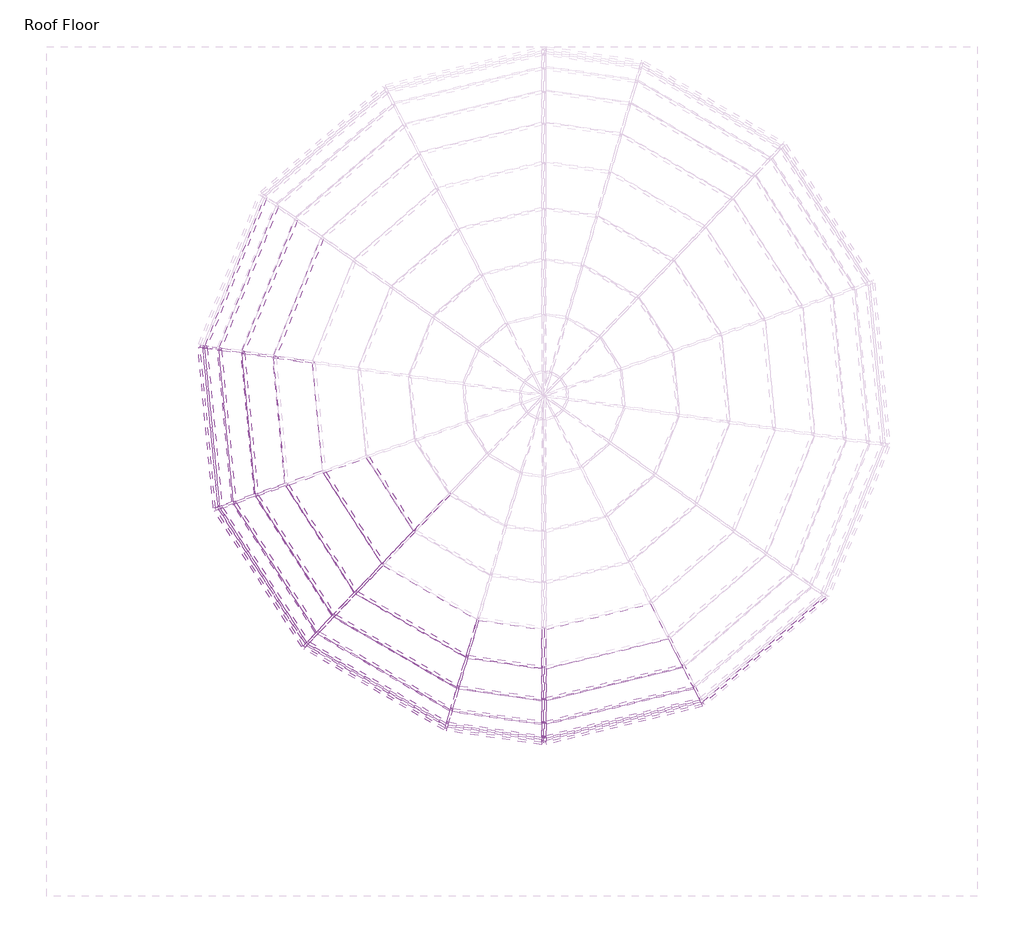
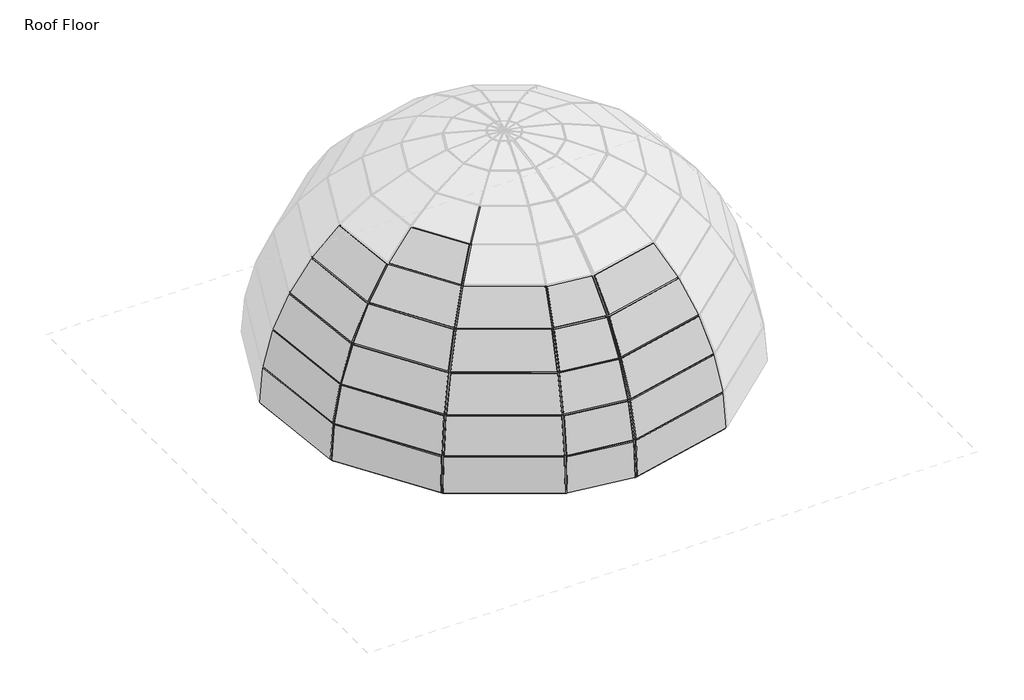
# One storey, part 1 of 5: 64 members, 26 plates.
"""IFC4 building model written with IfcOpenShell, lengths in millimetres."""

from ifc_helpers import new_model, si_unit, origin, place, context, project, spatial, transform, mapped, element, save
from components import member_4cbb40d8, member_e5884c93, member_19e455aa, member_1644e863, member_7f7bd10d, member_ecfbb555, member_824fc51d, member_1f5db4fb, member_3542fcca, member_54749c12, member_8c0c7285, member_e03b8e9c, member_dc775c2f, member_acb6b9ec, member_e077157f, member_24c90e2e, member_8ccf5568, member_6952dcc5, member_c3dcfc8e, member_3c5b05b3, member_fd7ad58a, member_76afc974, member_c7f1f8f4, member_16816f3b, member_95e271e4, member_56577a18, member_51c93bb0, system_panel_glazed_95229d4f, system_panel_glazed_dfb81899, system_panel_glazed_b60c8f88, system_panel_glazed_a08cf5d3, system_panel_glazed_10998a2e, system_panel_glazed_e9365c18, system_panel_glazed_9944c64d, system_panel_glazed_044c179b, system_panel_glazed_231bbcbc, system_panel_glazed_73e16893, system_panel_glazed_0d06b648, system_panel_glazed_5fe24ba9, system_panel_glazed_dbff668c, system_panel_glazed_0487fba4, system_panel_glazed_b552b528, system_panel_glazed_bd6fc11e

model = new_model("IFC4")

# Units and contexts
model_context = context("Model", 3, world=origin())
ifc_project = project(units=[si_unit("LENGTHUNIT", "METRE", prefix="MILLI")], contexts=[model_context])

# Site, building, storey
site = spatial("IfcSite", under=ifc_project)
building = spatial("IfcBuilding", under=site)
storey = spatial("IfcBuildingStorey", under=building, Name="Roof Floor", Elevation=15240.0)

# Members
placement = place(None, origin())
member_shape = member_4cbb40d8(model_context)
element("IfcMember", 1, ObjectType="Rectangular Mullion : 1\" Square", at=placement, inside=storey, context=model_context, shape_type="MappedRepresentation", body=[
    mapped(member_shape, transform((-2496.2458139, -4273.2496471, 21117.9670279), x_axis=(0.08886370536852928, 0.6165291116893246, 0.7823011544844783), y_axis=(-0.11160400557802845, -0.7742994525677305, 0.6229003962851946), z_axis=(0.9897715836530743, -0.14266117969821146, 0.0))),
])
member_2_shape = member_e5884c93(model_context)
element("IfcMember", 2, ObjectType="Rectangular Mullion : 1\" Square", at=placement, inside=storey, context=model_context, shape_type="MappedRepresentation", body=[
    mapped(member_2_shape, transform((-3496.18083, -4124.3511917, 21117.9670279), x_axis=(0.31528228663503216, 0.5452768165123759, 0.7767047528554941), y_axis=(-0.38878380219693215, -0.6723967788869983, 0.6298648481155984), z_axis=(0.8657044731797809, -0.5005554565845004, 0.0))),
])
element("IfcMember", 3, ObjectType="Rectangular Mullion : 1\" Square", at=placement, inside=storey, context=model_context, shape_type="MappedRepresentation", body=[
    mapped(member_2_shape, transform((-4957.4772001, -3272.7002476, 21117.9670279), x_axis=(0.5300546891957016, 0.3402524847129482, 0.7767047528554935), y_axis=(-0.6536259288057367, -0.41957528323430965, 0.6298648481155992), z_axis=(0.5401991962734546, -0.8415371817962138, 0.0))),
])
element("IfcMember", 4, ObjectType="Rectangular Mullion : 1\" Square", at=placement, inside=storey, context=model_context, shape_type="MappedRepresentation", body=[
    mapped(member_2_shape, transform((-6020.5401393, -161.9169828, 21117.9670279), x_axis=(0.5846780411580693, -0.2342676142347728, 0.7767047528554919), y_axis=(-0.7209835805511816, 0.28888224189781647, 0.6298648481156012), z_axis=(-0.3719331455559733, -0.9282595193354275, 0.0))),
])
member_3_shape = member_19e455aa(model_context)
element("IfcMember", 5, ObjectType="Rectangular Mullion : 1\" Square", at=placement, inside=storey, context=model_context, shape_type="MappedRepresentation", body=[
    mapped(member_3_shape, transform((-2496.2458139, -4693.39682, 20482.2624164), x_axis=(0.06901071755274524, 0.4787907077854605, 0.875212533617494), y_axis=(-0.12485885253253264, -0.8662604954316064, 0.4837385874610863), z_axis=(0.9897715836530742, -0.1426611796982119, 0.0))),
])
member_4_shape = member_1644e863(model_context)
element("IfcMember", 6, ObjectType="Rectangular Mullion : 1\" Square", at=placement, inside=storey, context=model_context, shape_type="MappedRepresentation", body=[
    mapped(member_4_shape, transform((-3614.8320569, -4527.3965158, 20482.2624164), x_axis=(0.24554093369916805, 0.424660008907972, 0.8714204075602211), y_axis=(-0.4361942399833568, -0.7543925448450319, 0.4905369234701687), z_axis=(0.8657044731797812, -0.5005554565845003, 0.0))),
])
element("IfcMember", 7, ObjectType="Rectangular Mullion : 1\" Square", at=placement, inside=storey, context=model_context, shape_type="MappedRepresentation", body=[
    mapped(member_4_shape, transform((-5247.5892288, -3576.60592, 20482.2624164), x_axis=(0.41280506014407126, 0.26498765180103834, 0.8714204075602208), y_axis=(-0.7333326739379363, -0.4707406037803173, 0.49053692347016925), z_axis=(0.5401991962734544, -0.841537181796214, 0.0))),
])
element("IfcMember", 8, ObjectType="Rectangular Mullion : 1\" Square", at=placement, inside=storey, context=model_context, shape_type="MappedRepresentation", body=[
    mapped(member_4_shape, transform((-6263.3500422, -1983.4553593, 20482.2624164), x_axis=(0.48833472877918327, 0.04642914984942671, 0.8714204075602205), y_axis=(-0.867508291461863, -0.0824796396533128, 0.49053692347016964), z_axis=(0.09464965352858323, -0.9955106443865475, 0.0))),
])
element("IfcMember", 9, ObjectType="Rectangular Mullion : 1\" Square", at=placement, inside=storey, context=model_context, shape_type="MappedRepresentation", body=[
    mapped(member_4_shape, transform((-6436.389872, -101.9782914, 20482.2624164), x_axis=(0.4553455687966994, -0.1824469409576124, 0.8714204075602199), y_axis=(-0.8089042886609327, 0.32411013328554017, 0.4905369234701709), z_axis=(-0.3719331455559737, -0.9282595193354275, 0.0))),
])
member_5_shape = member_7f7bd10d(model_context)
element("IfcMember", 10, ObjectType="Rectangular Mullion : 1\" Square", at=placement, inside=storey, context=model_context, shape_type="MappedRepresentation", body=[
    mapped(member_5_shape, transform((-6933.4908006, -42.7981489, 19047.3495572), x_axis=(-0.14266117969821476, -0.9897715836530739, 0.0), y_axis=(-0.9589308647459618, 0.1382159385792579, 0.24768518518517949), z_axis=(-0.24515175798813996, 0.03533506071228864, -0.9688405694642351))),
])
element("IfcMember", 11, ObjectType="Rectangular Mullion : 1\" Square", at=placement, inside=storey, context=model_context, shape_type="MappedRepresentation", body=[
    mapped(member_5_shape, transform((-6746.685161, -69.7234652, 19785.6060711), x_axis=(-0.1426611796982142, -0.9897715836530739, 0.0), y_axis=(-0.904895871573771, 0.13042758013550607, 0.40515689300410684), z_axis=(-0.401012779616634, 0.0578001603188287, -0.9142471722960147))),
])
element("IfcMember", 12, ObjectType="Rectangular Mullion : 1\" Square", at=placement, inside=storey, context=model_context, shape_type="MappedRepresentation", body=[
    mapped(member_5_shape, transform((-6441.1134229, -113.7671873, 20482.2624164), x_axis=(-0.1426611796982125, -0.9897715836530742, 0.0), y_axis=(-0.8257248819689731, 0.11901623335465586, 0.5513742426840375), z_axis=(-0.5457345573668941, 0.07865969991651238, -0.834258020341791))),
])
element("IfcMember", 13, ObjectType="Rectangular Mullion : 1\" Square", at=placement, inside=storey, context=model_context, shape_type="MappedRepresentation", body=[
    mapped(member_5_shape, transform((-6025.2636902, -173.7058787, 21117.9670279), x_axis=(-0.1426611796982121, -0.9897715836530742, 0.0), y_axis=(-0.7236170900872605, 0.1042988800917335, 0.6822756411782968), z_axis=(-0.6752970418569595, 0.09733424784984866, -0.731095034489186))),
])
element("IfcMember", 14, ObjectType="Rectangular Mullion : 1\" Square", at=placement, inside=storey, context=model_context, shape_type="MappedRepresentation", body=[
    mapped(member_5_shape, transform((-405.6587587, -4693.5416331, 19047.3495572), x_axis=(0.8888888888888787, 0.4581228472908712, 0.0), y_axis=(0.44384800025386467, -0.8611916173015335, 0.2476851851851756), z_axis=(0.11347024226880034, -0.2201646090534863, -0.9688405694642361))),
])
element("IfcMember", 15, ObjectType="Rectangular Mullion : 1\" Square", at=placement, inside=storey, context=model_context, shape_type="MappedRepresentation", body=[
    mapped(member_5_shape, transform((-492.1230833, -4525.776201, 19785.6060711), x_axis=(0.8888888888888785, 0.45812284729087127, 0.0), y_axis=(0.4188375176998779, -0.8126641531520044, 0.4051568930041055), z_axis=(0.18561162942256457, -0.3601394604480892, -0.9142471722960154))),
])
element("IfcMember", 16, ObjectType="Rectangular Mullion : 1\" Square", at=placement, inside=storey, context=model_context, shape_type="MappedRepresentation", body=[
    mapped(member_5_shape, transform((-633.5591449, -4251.3499322, 20482.2624164), x_axis=(0.8888888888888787, 0.458122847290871, 0.0), y_axis=(0.38219265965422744, -0.7415626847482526, 0.5513742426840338), z_axis=(0.2525971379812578, -0.4901104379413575, -0.8342580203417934))),
])
member_6_shape = member_ecfbb555(model_context)
element("IfcMember", 17, ObjectType="Rectangular Mullion : 1\" Square", at=placement, inside=storey, context=model_context, shape_type="MappedRepresentation", body=[
    mapped(member_6_shape, transform((-6555.1468004, -2084.2947787, 19785.6060711), x_axis=(0.3344897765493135, 0.03180211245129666, 0.941862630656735), y_axis=(-0.9376342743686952, -0.08914697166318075, 0.3359981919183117), z_axis=(0.09464965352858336, -0.9955106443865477, 0.0))),
])
element("IfcMember", 18, ObjectType="Rectangular Mullion : 1\" Square", at=placement, inside=storey, context=model_context, shape_type="MappedRepresentation", body=[
    mapped(member_6_shape, transform((-6741.9616101, -57.9345693, 19785.6060711), x_axis=(0.311893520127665, -0.12496886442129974, 0.9418626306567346), y_axis=(-0.8742929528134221, 0.35030993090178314, 0.33599819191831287), z_axis=(-0.3719331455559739, -0.9282595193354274, 0.0))),
])
element("IfcMember", 19, ObjectType="Rectangular Mullion : 1\" Square", at=placement, inside=storey, context=model_context, shape_type="MappedRepresentation", body=[
    mapped(member_6_shape, transform((-3702.0185062, -4823.5594096, 19785.6060711), x_axis=(0.16818572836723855, 0.2908751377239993, 0.9418626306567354), y_axis=(-0.47145447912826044, -0.815374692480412, 0.33599819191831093), z_axis=(0.8657044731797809, -0.5005554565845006, 0.0))),
])
element("IfcMember", 20, ObjectType="Rectangular Mullion : 1\" Square", at=placement, inside=storey, context=model_context, shape_type="MappedRepresentation", body=[
    mapped(member_6_shape, transform((-5460.767283, -3799.9197212, 19785.6060711), x_axis=(0.2827549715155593, 0.18150595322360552, 0.9418626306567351), y_axis=(-0.7926124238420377, -0.5087934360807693, 0.33599819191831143), z_axis=(0.5401991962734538, -0.8415371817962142, 0.0))),
])
member_7_shape = member_824fc51d(model_context)
element("IfcMember", 21, ObjectType="Rectangular Mullion : 1\" Square", at=placement, inside=storey, context=model_context, shape_type="MappedRepresentation", body=[
    mapped(member_7_shape, transform((-504.4652648, -4528.7696197, 19785.6060711), x_axis=(-0.0791955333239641, 0.3265315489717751, 0.9418626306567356), y_axis=(0.22199915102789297, -0.9153259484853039, 0.3359981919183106), z_axis=(0.9718253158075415, 0.23570226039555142, 0.0))),
])
member_8_shape = member_1f5db4fb(model_context)
element("IfcMember", 22, ObjectType="Rectangular Mullion : 1\" Square", at=placement, inside=storey, context=model_context, shape_type="MappedRepresentation", body=[
    mapped(member_8_shape, transform((-2496.2458139, -5190.8624836, 19047.3495572), x_axis=(0.02393216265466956, 0.1660393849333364, 0.9858286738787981), y_axis=(-0.140639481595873, -0.9757452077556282, 0.16775525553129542), z_axis=(0.9897715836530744, -0.14266117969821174, 0.0))),
])
member_9_shape = member_3542fcca(model_context)
element("IfcMember", 23, ObjectType="Rectangular Mullion : 1\" Square", at=placement, inside=storey, context=model_context, shape_type="MappedRepresentation", body=[
    mapped(member_9_shape, transform((-3755.318332, -5004.6131259, 19047.3495572), x_axis=(0.08547664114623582, 0.1478307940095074, 0.9853120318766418), y_axis=(-0.4932033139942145, -0.8529890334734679, 0.1707635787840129), z_axis=(0.8657044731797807, -0.5005554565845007, 0.0))),
])
element("IfcMember", 24, ObjectType="Rectangular Mullion : 1\" Square", at=placement, inside=storey, context=model_context, shape_type="MappedRepresentation", body=[
    mapped(member_9_shape, transform((-5591.08975, -3936.43849, 19047.3495572), x_axis=(0.14370390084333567, 0.09224634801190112, 0.9853120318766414), y_axis=(-0.8291767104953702, -0.5322647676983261, 0.17076357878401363), z_axis=(0.540199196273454, -0.8415371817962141, 0.0))),
])
element("IfcMember", 25, ObjectType="Rectangular Mullion : 1\" Square", at=placement, inside=storey, context=model_context, shape_type="MappedRepresentation", body=[
    mapped(member_9_shape, transform((-6733.5313603, -2145.9410957, 19047.3495572), x_axis=(0.16999696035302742, 0.016162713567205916, 0.9853120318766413), y_axis=(-0.9808886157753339, -0.09325944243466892, 0.17076357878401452), z_axis=(0.09464965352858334, -0.9955106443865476, 0.0))),
])
element("IfcMember", 26, ObjectType="Rectangular Mullion : 1\" Square", at=placement, inside=storey, context=model_context, shape_type="MappedRepresentation", body=[
    mapped(member_9_shape, transform((-6928.7672496, -31.009253, 19047.3495572), x_axis=(0.1585129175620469, -0.06351263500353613, 0.9853120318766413), y_axis=(-0.9146252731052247, 0.3664702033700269, 0.17076357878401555), z_axis=(-0.37193314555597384, -0.9282595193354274, 0.0))),
])
member_10_shape = member_54749c12(model_context)
element("IfcMember", 27, ObjectType="Rectangular Mullion : 1\" Square", at=placement, inside=storey, context=model_context, shape_type="MappedRepresentation", body=[
    mapped(member_10_shape, transform((-645.9013264, -4254.3433509, 20482.2624164), x_axis=(-0.11562066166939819, 0.47671620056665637, 0.8714204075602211), y_axis=(0.20539575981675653, -0.8468684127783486, 0.49053692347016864), z_axis=(0.9718253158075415, 0.2357022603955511, 0.0))),
])
member_11_shape = member_8c0c7285(model_context)
element("IfcMember", 28, ObjectType="Rectangular Mullion : 1\" Square", at=placement, inside=storey, context=model_context, shape_type="MappedRepresentation", body=[
    mapped(member_11_shape, transform((-2496.2458139, -5002.1263725, 19785.6060711), x_axis=(0.04716053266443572, 0.3271959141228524, 0.9437789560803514), y_axis=(-0.1346406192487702, -0.9341255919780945, 0.33057719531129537), z_axis=(0.9897715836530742, -0.14266117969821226, 0.0))),
])
member_12_shape = member_e03b8e9c(model_context)
element("IfcMember", 29, ObjectType="Rectangular Mullion : 1\" Square", at=placement, inside=storey, context=model_context, shape_type="MappedRepresentation", body=[
    mapped(member_12_shape, transform((-2471.1056157, -5194.4860776, 19047.3495572), x_axis=(-0.9720128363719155, -0.23411060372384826, 0.01957731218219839), y_axis=(0.23492774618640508, -0.9686319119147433, 0.08100106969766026), z_axis=(0.0, 0.08333333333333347, 0.9965217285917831))),
])
member_13_shape = member_dc775c2f(model_context)
element("IfcMember", 30, ObjectType="Rectangular Mullion : 1\" Square", at=placement, inside=storey, context=model_context, shape_type="MappedRepresentation", body=[
    mapped(member_13_shape, transform((-2471.1056157, -5005.7499665, 19785.6060711), x_axis=(-0.9734856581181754, -0.2216203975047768, 0.05665750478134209), y_axis=(0.22874805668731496, -0.9431523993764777, 0.24111797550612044), z_axis=(0.0, 0.247685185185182, 0.9688405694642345))),
])
member_14_shape = member_acb6b9ec(model_context)
element("IfcMember", 31, ObjectType="Rectangular Mullion : 1\" Square", at=placement, inside=storey, context=model_context, shape_type="MappedRepresentation", body=[
    mapped(member_14_shape, transform((-2471.1056157, -4697.020414, 20482.2624164), x_axis=(-0.9762871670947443, -0.19791575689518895, 0.08770815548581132), y_axis=(0.21647948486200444, -0.8925677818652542, 0.3955494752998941), z_axis=(0.0, 0.4051568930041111, 0.9142471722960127))),
])
member_15_shape = member_e077157f(model_context)
element("IfcMember", 32, ObjectType="Rectangular Mullion : 1\" Square", at=placement, inside=storey, context=model_context, shape_type="MappedRepresentation", body=[
    mapped(member_15_shape, transform((-2471.1056157, -4276.8732411, 21117.9670279), x_axis=(-0.980137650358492, -0.16544871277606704, 0.10934765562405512), y_axis=(0.1983183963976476, -0.817687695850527, 0.54042265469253), z_axis=(0.0, 0.5513742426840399, 0.8342580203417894))),
])
member_16_shape = member_24c90e2e(model_context)
element("IfcMember", 33, ObjectType="Rectangular Mullion : 1\" Square", at=placement, inside=storey, context=model_context, shape_type="MappedRepresentation", body=[
    mapped(member_16_shape, transform((-418.0009402, -4696.5350518, 19047.3495572), x_axis=(-0.04024936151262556, 0.16595236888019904, 0.9853120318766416), y_axis=(0.23224027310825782, -0.9575511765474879, 0.17076357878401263), z_axis=(0.9718253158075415, 0.23570226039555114, 0.0))),
])
member_17_shape = member_8ccf5568(model_context)
element("IfcMember", 34, ObjectType="Rectangular Mullion : 1\" Square", at=placement, inside=storey, context=model_context, shape_type="MappedRepresentation", body=[
    mapped(member_17_shape, transform((-3762.2565369, -5071.8854493, 18288.0), x_axis=(0.9592955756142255, -0.2824039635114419, 0.0), y_axis=(-0.2814216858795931, -0.9559588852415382, 0.08333333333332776), z_axis=(-0.023533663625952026, -0.07994129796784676, -0.9965217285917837))),
])
element("IfcMember", 35, ObjectType="Rectangular Mullion : 1\" Square", at=placement, inside=storey, context=model_context, shape_type="MappedRepresentation", body=[
    mapped(member_17_shape, transform((-5628.0760315, -3993.0575606, 18288.0), x_axis=(0.7233314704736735, -0.690500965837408, 0.0), y_axis=(-0.6880992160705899, -0.720815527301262, 0.08333333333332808), z_axis=(-0.057541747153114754, -0.06027762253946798, -0.9965217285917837))),
])
element("IfcMember", 36, ObjectType="Rectangular Mullion : 1\" Square", at=placement, inside=storey, context=model_context, shape_type="MappedRepresentation", body=[
    mapped(member_17_shape, transform((-6792.3465449, -2179.3248979, 18288.0), x_axis=(0.3266270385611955, -0.9451533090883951, 0.0), y_axis=(-0.9418658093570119, -0.32549094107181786, 0.08333333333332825), z_axis=(-0.07876277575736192, -0.02721891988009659, -0.9965217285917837))),
])
member_18_shape = member_6952dcc5(model_context)
element("IfcMember", 37, ObjectType="Rectangular Mullion : 1\" Square", at=placement, inside=storey, context=model_context, shape_type="MappedRepresentation", body=[
    mapped(member_18_shape, transform((-6995.1392456, -46.3821492, 18288.0), x_axis=(-0.08063742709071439, -0.007666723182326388, -0.9967140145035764), y_axis=(-0.9922394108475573, -0.09433863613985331, 0.08100106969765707), z_axis=(-0.09464965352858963, 0.995510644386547, 0.0))),
])
element("IfcMember", 38, ObjectType="Rectangular Mullion : 1\" Square", at=placement, inside=storey, context=model_context, shape_type="MappedRepresentation", body=[
    mapped(member_18_shape, transform((-6785.4860151, -2190.0124201, 18288.0), x_axis=(-0.06816541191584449, -0.04375671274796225, -0.9967140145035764), y_axis=(-0.8387719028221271, -0.5384241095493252, 0.08100106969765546), z_axis=(-0.5401991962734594, 0.8415371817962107, 0.0))),
])
element("IfcMember", 39, ObjectType="Rectangular Mullion : 1\" Square", at=placement, inside=storey, context=model_context, shape_type="MappedRepresentation", body=[
    mapped(member_18_shape, transform((-5617.0815847, -3999.4146149, 18288.0), x_axis=(-0.04054552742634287, -0.07012298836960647, -0.9967140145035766), y_axis=(-0.4989106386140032, -0.8628597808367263, 0.08100106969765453), z_axis=(-0.8657044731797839, 0.5005554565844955, 0.0))),
])
element("IfcMember", 40, ObjectType="Rectangular Mullion : 1\" Square", at=placement, inside=storey, context=model_context, shape_type="MappedRepresentation", body=[
    mapped(member_18_shape, transform((-366.9684834, -4741.6710256, 18288.0), x_axis=(0.053033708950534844, -0.061225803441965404, -0.9967140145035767), y_axis=(0.6525770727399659, -0.7533803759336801, 0.08100106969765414), z_axis=(-0.7558641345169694, -0.6547285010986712, 0.0))),
])
member_19_shape = member_c3dcfc8e(model_context)
element("IfcMember", 41, ObjectType="Rectangular Mullion : 1\" Square", at=placement, inside=storey, context=model_context, shape_type="MappedRepresentation", body=[
    mapped(member_19_shape, transform((-3749.6864378, -5073.6972463, 18288.0), x_axis=(-0.01176766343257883, -0.0816430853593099, -0.9965921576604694), y_axis=(-0.14217501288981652, -0.9863985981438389, 0.08248679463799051), z_axis=(-0.9897715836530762, 0.14266117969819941, 0.0))),
])
member_20_shape = member_3c5b05b3(model_context)
element("IfcMember", 42, ObjectType="Rectangular Mullion : 1\" Square", at=placement, inside=storey, context=model_context, shape_type="MappedRepresentation", body=[
    mapped(member_20_shape, transform((-2471.1056157, -5194.4860776, 19047.3495572), x_axis=(0.9903900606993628, -0.13399288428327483, 0.034255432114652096), y_axis=(-0.13830230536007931, -0.9595300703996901, 0.2453049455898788), z_axis=(0.0, -0.247685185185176, -0.9688405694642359))),
])
member_21_shape = member_fd7ad58a(model_context)
element("IfcMember", 43, ObjectType="Rectangular Mullion : 1\" Square", at=placement, inside=storey, context=model_context, shape_type="MappedRepresentation", body=[
    mapped(member_21_shape, transform((-2471.1056157, -5005.7499665, 19785.6060711), x_axis=(0.9914290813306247, -0.1194427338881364, 0.052932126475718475), y_axis=(-0.13064599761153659, -0.9064112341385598, 0.4016843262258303), z_axis=(0.0, -0.4051568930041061, -0.914247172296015))),
])
member_22_shape = member_76afc974(model_context)
element("IfcMember", 44, ObjectType="Rectangular Mullion : 1\" Square", at=placement, inside=storey, context=model_context, shape_type="MappedRepresentation", body=[
    mapped(member_22_shape, transform((-2471.1056157, -4697.020414, 20482.2624164), x_axis=(0.9928478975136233, -0.09959885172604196, 0.06582644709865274), y_axis=(-0.11938614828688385, -0.828291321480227, 0.5474307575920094), z_axis=(0.0, -0.551374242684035, -0.8342580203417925))),
])
member_23_shape = member_c7f1f8f4(model_context)
element("IfcMember", 45, ObjectType="Rectangular Mullion : 1\" Square", at=placement, inside=storey, context=model_context, shape_type="MappedRepresentation", body=[
    mapped(member_23_shape, transform((-2471.1056157, -4276.8732411, 21117.9670279), x_axis=(0.9944936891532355, -0.07661618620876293, 0.07150008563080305), y_axis=(-0.10479648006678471, -0.7270693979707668, 0.678518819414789), z_axis=(0.0, -0.6822756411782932, -0.7310950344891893))),
])
member_24_shape = member_16816f3b(model_context)
element("IfcMember", 46, ObjectType="Rectangular Mullion : 1\" Square", at=placement, inside=storey, context=model_context, shape_type="MappedRepresentation", body=[
    mapped(member_24_shape, transform((-4180.5990919, -2458.884754, 22138.0708204), x_axis=(0.714452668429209, 0.4586211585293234, 0.5284165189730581), y_axis=(-0.4446821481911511, -0.28545017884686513, 0.8489852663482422), z_axis=(0.5401991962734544, -0.841537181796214, 0.0))),
])
member_25_shape = member_95e271e4(model_context)
element("IfcMember", 47, ObjectType="Rectangular Mullion : 1\" Square", at=placement, inside=storey, context=model_context, shape_type="MappedRepresentation", body=[
    mapped(member_25_shape, transform((-4598.4898643, -2896.6445282, 21675.0614442), x_axis=(0.6313968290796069, 0.40530598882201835, 0.6611089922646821), y_axis=(-0.5563477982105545, -0.35713054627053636, 0.7502898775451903), z_axis=(0.5401991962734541, -0.8415371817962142, 0.0))),
])
member_26_shape = member_56577a18(model_context)
element("IfcMember", 48, ObjectType="Rectangular Mullion : 1\" Square", at=placement, inside=storey, context=model_context, shape_type="MappedRepresentation", body=[
    mapped(member_26_shape, transform((-2446.4212527, -5251.9992402, 18288.0), x_axis=(0.01909213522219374, -0.078718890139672, -0.9967140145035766), y_axis=(0.23492774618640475, -0.9686319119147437, 0.08100106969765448), z_axis=(-0.9718253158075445, -0.2357022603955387, 0.0))),
])
member_27_shape = member_51c93bb0(model_context)
element("IfcMember", 49, ObjectType="Rectangular Mullion : 1\" Square", at=placement, inside=storey, context=model_context, shape_type="MappedRepresentation", body=[
    mapped(member_27_shape, transform((-2471.1056157, -5257.9860776, 18288.0), x_axis=(0.9898415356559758, -0.14168048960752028, 0.011847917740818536), y_axis=(-0.14217501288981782, -0.9863985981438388, 0.08248679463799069), z_axis=(0.0, -0.08333333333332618, -0.9965217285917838))),
])
element("IfcMember", 50, ObjectType="Rectangular Mullion : 1\" Square", at=placement, inside=storey, context=model_context, shape_type="MappedRepresentation", body=[
    mapped(member_17_shape, transform((-6996.3412962, -33.739164, 18288.0), x_axis=(-0.14266117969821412, -0.9897715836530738, 0.0), y_axis=(-0.9863288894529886, 0.1421649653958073, 0.08333333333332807), z_axis=(-0.08248096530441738, 0.011888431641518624, -0.9965217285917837))),
])
element("IfcMember", 51, ObjectType="Rectangular Mullion : 1\" Square", at=placement, inside=storey, context=model_context, shape_type="MappedRepresentation", body=[
    mapped(member_17_shape, transform((-376.5679579, -4749.9860776, 18288.0), x_axis=(0.8888888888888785, 0.4581228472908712, 0.0), y_axis=(0.45652937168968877, -0.8857970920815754, 0.08333333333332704), z_axis=(0.03817690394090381, -0.07407407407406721, -0.9965217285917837))),
])
element("IfcMember", 52, ObjectType="Rectangular Mullion : 1\" Square", at=placement, inside=storey, context=model_context, shape_type="MappedRepresentation", body=[
    mapped(member_5_shape, transform((-6732.3293097, -2158.5840809, 19047.3495572), x_axis=(0.3266270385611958, -0.945153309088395, 0.0), y_axis=(-0.9157028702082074, -0.3164495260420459, 0.247685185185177), z_axis=(-0.23410047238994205, -0.08090067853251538, -0.9688405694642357))),
])
element("IfcMember", 53, ObjectType="Rectangular Mullion : 1\" Square", at=placement, inside=storey, context=model_context, shape_type="MappedRepresentation", body=[
    mapped(member_5_shape, transform((-6553.9447498, -2096.9377639, 19785.6060711), x_axis=(0.3266270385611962, -0.9451533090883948, 0.0), y_axis=(-0.8641037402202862, -0.2986178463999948, 0.4051568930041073), z_axis=(-0.3829353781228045, -0.1323351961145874, -0.9142471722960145))),
])
element("IfcMember", 54, ObjectType="Rectangular Mullion : 1\" Square", at=placement, inside=storey, context=model_context, shape_type="MappedRepresentation", body=[
    mapped(member_5_shape, transform((-6262.1479916, -1996.0983444, 20482.2624164), x_axis=(0.32662703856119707, -0.9451533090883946, 0.0), y_axis=(-0.78850172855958, -0.2724912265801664, 0.5513742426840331), z_axis=(-0.5211331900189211, -0.18009373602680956, -0.834258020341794))),
])
element("IfcMember", 55, ObjectType="Rectangular Mullion : 1\" Square", at=placement, inside=storey, context=model_context, shape_type="MappedRepresentation", body=[
    mapped(member_5_shape, transform((-5584.2292202, -3947.1260122, 19047.3495572), x_axis=(0.7233314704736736, -0.6905009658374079, 0.0), y_axis=(-0.668985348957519, -0.7007928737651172, 0.24768518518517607), z_axis=(-0.17102685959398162, -0.1791584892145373, -0.968840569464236))),
])
element("IfcMember", 56, ObjectType="Rectangular Mullion : 1\" Square", at=placement, inside=storey, context=model_context, shape_type="MappedRepresentation", body=[
    mapped(member_5_shape, transform((-5453.9067532, -3810.6072434, 19785.6060711), x_axis=(0.7233314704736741, -0.6905009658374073, 0.0), y_axis=(-0.6312885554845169, -0.6613037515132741, 0.4051568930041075), z_axis=(-0.27976122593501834, -0.29306273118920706, -0.9142471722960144))),
])
element("IfcMember", 57, ObjectType="Rectangular Mullion : 1\" Square", at=placement, inside=storey, context=model_context, shape_type="MappedRepresentation", body=[
    mapped(member_5_shape, transform((-5240.728699, -3587.2934423, 20482.2624164), x_axis=(0.7233314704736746, -0.6905009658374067, 0.0), y_axis=(-0.5760559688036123, -0.6034450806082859, 0.5513742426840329), z_axis=(-0.3807244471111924, -0.3988263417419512, -0.834258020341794))),
])
element("IfcMember", 58, ObjectType="Rectangular Mullion : 1\" Square", at=placement, inside=storey, context=model_context, shape_type="MappedRepresentation", body=[
    mapped(member_5_shape, transform((-4950.6166703, -3283.3877699, 21117.9670279), x_axis=(0.7233314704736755, -0.6905009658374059, 0.0), y_axis=(-0.5048218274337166, -0.5288240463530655, 0.6822756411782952), z_axis=(-0.47111198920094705, -0.49351144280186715, -0.7310950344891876))),
])
element("IfcMember", 59, ObjectType="Rectangular Mullion : 1\" Square", at=placement, inside=storey, context=model_context, shape_type="MappedRepresentation", body=[
    mapped(member_5_shape, transform((-4591.6293345, -2907.3320504, 21675.0614442), x_axis=(0.7233314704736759, -0.6905009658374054, 0.0), y_axis=(-0.41956485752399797, -0.43951345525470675, 0.7942249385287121), z_axis=(-0.5484130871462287, -0.5744878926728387, -0.6076238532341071))),
])
element("IfcMember", 60, ObjectType="Rectangular Mullion : 1\" Square", at=placement, inside=storey, context=model_context, shape_type="MappedRepresentation", body=[
    mapped(member_5_shape, transform((-4173.7385621, -2469.5722762, 22138.0708204), x_axis=(0.7233314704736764, -0.6905009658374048, 0.0), y_axis=(-0.3226533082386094, -0.3379941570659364, 0.8841124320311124), z_axis=(-0.6104804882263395, -0.6395063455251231, -0.46727423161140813))),
])
element("IfcMember", 61, ObjectType="Rectangular Mullion : 1\" Square", at=placement, inside=storey, context=model_context, shape_type="MappedRepresentation", body=[
    mapped(member_5_shape, transform((-3744.3238852, -5010.9701802, 19047.3495572), x_axis=(0.9592955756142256, -0.28240396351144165, 0.0), y_axis=(-0.27360441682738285, -0.9294044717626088, 0.24768518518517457), z_axis=(-0.06994727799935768, -0.23760330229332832, -0.9688405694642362))),
])
element("IfcMember", 62, ObjectType="Rectangular Mullion : 1\" Square", at=placement, inside=storey, context=model_context, shape_type="MappedRepresentation", body=[
    mapped(member_5_shape, transform((-3691.0240594, -4829.9164639, 19785.6060711), x_axis=(0.9592955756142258, -0.282403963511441, 0.0), y_axis=(-0.258187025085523, -0.8770332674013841, 0.40515689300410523), z_axis=(-0.11441791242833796, -0.38866521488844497, -0.9142471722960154))),
])
element("IfcMember", 63, ObjectType="Rectangular Mullion : 1\" Square", at=placement, inside=storey, context=model_context, shape_type="MappedRepresentation", body=[
    mapped(member_5_shape, transform((-3603.8376101, -4533.7535701, 20482.2624164), x_axis=(0.959295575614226, -0.2824039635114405, 0.0), y_axis=(-0.23559777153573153, -0.800300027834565, 0.5513742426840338), z_axis=(-0.15571027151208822, -0.5289308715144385, -0.8342580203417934))),
])
element("IfcMember", 64, ObjectType="Rectangular Mullion : 1\" Square", at=placement, inside=storey, context=model_context, shape_type="MappedRepresentation", body=[
    mapped(member_5_shape, transform((-3485.1863832, -4130.708246, 21117.9670279), x_axis=(0.9592955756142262, -0.28240396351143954, 0.0), y_axis=(-0.20646413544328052, -0.7013362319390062, 0.6822756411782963), z_axis=(-0.19267734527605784, -0.6545040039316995, -0.7310950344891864))),
])

# Plates
system_panel_glazed_shape = system_panel_glazed_95229d4f(model_context)
element("IfcPlate", 65, ObjectType="System Panel : Glazed", at=placement, inside=storey, context=model_context, shape_type="MappedRepresentation", body=[
    mapped(system_panel_glazed_shape, transform((-1418.1494455, -5000.4896196, 18313.316536), x_axis=(0.9718253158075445, 0.23570226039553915, 0.0), y_axis=(-0.2349277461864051, 0.9686319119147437, -0.08100106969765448), z_axis=(-0.01909213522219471, 0.07871889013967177, 0.9967140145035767))),
])
system_panel_glazed_2_shape = system_panel_glazed_dfb81899(model_context)
element("IfcPlate", 66, ObjectType="System Panel : Glazed", at=placement, inside=storey, context=model_context, shape_type="MappedRepresentation", body=[
    mapped(system_panel_glazed_2_shape, transform((-6892.2957299, -1106.3372962, 18313.316536), x_axis=(0.09464965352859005, -0.9955106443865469, 0.0), y_axis=(0.9922394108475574, 0.09433863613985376, -0.08100106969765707), z_axis=(0.08063742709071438, 0.0076667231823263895, 0.9967140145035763))),
])
element("IfcPlate", 67, ObjectType="System Panel : Glazed", at=placement, inside=storey, context=model_context, shape_type="MappedRepresentation", body=[
    mapped(system_panel_glazed_2_shape, transform((-6208.4798867, -3085.0798087, 18313.316536), x_axis=(0.5401991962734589, -0.8415371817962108, 0.0), y_axis=(0.8387719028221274, 0.5384241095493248, -0.08100106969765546), z_axis=(0.06816541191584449, 0.04375671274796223, 0.9967140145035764))),
])
element("IfcPlate", 68, ObjectType="System Panel : Glazed", at=placement, inside=storey, context=model_context, shape_type="MappedRepresentation", body=[
    mapped(system_panel_glazed_2_shape, transform((-4694.1364278, -4530.690381, 18313.316536), x_axis=(0.8657044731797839, -0.5005554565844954, 0.0), y_axis=(0.49891063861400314, 0.8628597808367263, -0.08100106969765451), z_axis=(0.04054552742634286, 0.07012298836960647, 0.9967140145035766))),
])
system_panel_glazed_3_shape = system_panel_glazed_b60c8f88(model_context)
element("IfcPlate", 69, ObjectType="System Panel : Glazed", at=placement, inside=storey, context=model_context, shape_type="MappedRepresentation", body=[
    mapped(system_panel_glazed_3_shape, transform((-3122.6676714, -5161.9560665, 18313.3134408), x_axis=(0.9897715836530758, -0.14266117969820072, 0.0), y_axis=(0.14217501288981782, 0.9863985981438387, -0.0824867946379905), z_axis=(0.011767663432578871, 0.0816430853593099, 0.9965921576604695))),
])
system_panel_glazed_4_shape = system_panel_glazed_a08cf5d3(model_context)
element("IfcPlate", 70, ObjectType="System Panel : Glazed", at=placement, inside=storey, context=model_context, shape_type="MappedRepresentation", body=[
    mapped(system_panel_glazed_4_shape, transform((-1432.9223203, -4939.5386671, 19059.674854), x_axis=(0.9718253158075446, 0.23570226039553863, 0.0), y_axis=(-0.22874805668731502, 0.9431523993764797, -0.24111797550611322), z_axis=(-0.056832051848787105, 0.23432455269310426, 0.9704958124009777))),
])
system_panel_glazed_5_shape = system_panel_glazed_10998a2e(model_context)
element("IfcPlate", 71, ObjectType="System Panel : Glazed", at=placement, inside=storey, context=model_context, shape_type="MappedRepresentation", body=[
    mapped(system_panel_glazed_5_shape, transform((-6829.8616042, -1100.4012789, 19059.674854), x_axis=(0.0946496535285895, -0.995510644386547, 0.0), y_axis=(0.9661389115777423, 0.09185709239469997, -0.2411179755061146), z_axis=(0.24003551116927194, 0.02282173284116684, 0.9704958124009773))),
])
element("IfcPlate", 72, ObjectType="System Panel : Glazed", at=placement, inside=storey, context=model_context, shape_type="MappedRepresentation", body=[
    mapped(system_panel_glazed_5_shape, transform((-6155.7023112, -3051.2008495, 19059.674854), x_axis=(0.5401991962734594, -0.8415371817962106, 0.0), y_axis=(0.816708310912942, 0.5242610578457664, -0.24111797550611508), z_axis=(0.20290974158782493, 0.13025173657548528, 0.9704958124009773))),
])
element("IfcPlate", 73, ObjectType="System Panel : Glazed", at=placement, inside=storey, context=model_context, shape_type="MappedRepresentation", body=[
    mapped(system_panel_glazed_5_shape, transform((-4662.7437526, -4476.3971375, 19059.674854), x_axis=(0.8657044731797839, -0.5005554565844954, 0.0), y_axis=(0.48578697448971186, 0.8401625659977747, -0.2411179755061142), z_axis=(0.12069291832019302, 0.20873690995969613, 0.9704958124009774))),
])
system_panel_glazed_6_shape = system_panel_glazed_e9365c18(model_context)
element("IfcPlate", 74, ObjectType="System Panel : Glazed", at=placement, inside=storey, context=model_context, shape_type="MappedRepresentation", body=[
    mapped(system_panel_glazed_6_shape, transform((-3113.5592846, -5098.7381569, 19059.661521), x_axis=(0.9897715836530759, -0.14266117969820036, 0.0), y_axis=(0.13830230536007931, 0.9595300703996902, -0.2453049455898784), z_axis=(0.034995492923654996, 0.24279586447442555, 0.9694459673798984))),
])
system_panel_glazed_7_shape = system_panel_glazed_9944c64d(model_context)
element("IfcPlate", 75, ObjectType="System Panel : Glazed", at=placement, inside=storey, context=model_context, shape_type="MappedRepresentation", body=[
    mapped(system_panel_glazed_7_shape, transform((-1476.5989712, -4759.3775593, 19797.2703184), x_axis=(0.9718253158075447, 0.23570226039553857, 0.0), y_axis=(-0.21647948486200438, 0.8925677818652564, -0.3955494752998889), z_axis=(-0.09323190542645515, 0.3844049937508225, 0.9184446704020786))),
])
system_panel_glazed_8_shape = system_panel_glazed_044c179b(model_context)
element("IfcPlate", 76, ObjectType="System Panel : Glazed", at=placement, inside=storey, context=model_context, shape_type="MappedRepresentation", body=[
    mapped(system_panel_glazed_8_shape, transform((-6645.3140292, -1082.855144, 19797.2703184), x_axis=(0.09464965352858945, -0.995510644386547, 0.0), y_axis=(0.9143214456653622, 0.08693046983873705, -0.39554947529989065), z_axis=(0.39377371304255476, 0.03743862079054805, 0.9184446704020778))),
])
element("IfcPlate", 77, ObjectType="System Panel : Glazed", at=placement, inside=storey, context=model_context, shape_type="MappedRepresentation", body=[
    mapped(system_panel_glazed_8_shape, transform((-5999.6983077, -2951.0588247, 19797.2703184), x_axis=(0.5401991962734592, -0.8415371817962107, 0.0), y_axis=(0.7729053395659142, 0.49614307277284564, -0.3955494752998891), z_axis=(0.3328695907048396, 0.21367550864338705, 0.9184446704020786))),
])
element("IfcPlate", 78, ObjectType="System Panel : Glazed", at=placement, inside=storey, context=model_context, shape_type="MappedRepresentation", body=[
    mapped(system_panel_glazed_8_shape, transform((-4569.9508768, -4315.913006, 19797.2703184), x_axis=(0.8657044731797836, -0.5005554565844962, 0.0), y_axis=(0.45973249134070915, 0.7951016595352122, -0.39554947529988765), z_axis=(0.19799444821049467, 0.3424289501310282, 0.9184446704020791))),
])
system_panel_glazed_9_shape = system_panel_glazed_231bbcbc(model_context)
element("IfcPlate", 79, ObjectType="System Panel : Glazed", at=placement, inside=storey, context=model_context, shape_type="MappedRepresentation", body=[
    mapped(system_panel_glazed_9_shape, transform((-3086.6326417, -4911.8765878, 19797.2364542), x_axis=(0.9897715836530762, -0.14266117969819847, 0.0), y_axis=(0.13064599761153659, 0.9064112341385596, -0.4016843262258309), z_axis=(0.05730475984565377, 0.39757573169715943, 0.9157781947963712))),
])
system_panel_glazed_10_shape = system_panel_glazed_73e16893(model_context)
element("IfcPlate", 80, ObjectType="System Panel : Glazed", at=placement, inside=storey, context=model_context, shape_type="MappedRepresentation", body=[
    mapped(system_panel_glazed_10_shape, transform((-1547.7262175, -4466.0056674, 20492.9481164), x_axis=(0.9718253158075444, 0.23570226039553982, 0.0), y_axis=(-0.1983183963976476, 0.8176876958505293, -0.5404226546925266), z_axis=(-0.12737884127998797, 0.5251964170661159, 0.8413936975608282))),
])
system_panel_glazed_11_shape = system_panel_glazed_0d06b648(model_context)
element("IfcPlate", 81, ObjectType="System Panel : Glazed", at=placement, inside=storey, context=model_context, shape_type="MappedRepresentation", body=[
    mapped(system_panel_glazed_11_shape, transform((-6344.7981517, -1054.2831505, 20492.9481164), x_axis=(0.09464965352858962, -0.995510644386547, 0.0), y_axis=(0.8376163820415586, 0.07963762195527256, -0.5404226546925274), z_axis=(0.5379965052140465, 0.051150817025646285, 0.8413936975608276))),
])
element("IfcPlate", 82, ObjectType="System Panel : Glazed", at=placement, inside=storey, context=model_context, shape_type="MappedRepresentation", body=[
    mapped(system_panel_glazed_11_shape, transform((-5745.6625662, -2787.9883076, 20492.9481164), x_axis=(0.5401991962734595, -0.8415371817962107, 0.0), y_axis=(0.7080640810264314, 0.45452019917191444, -0.5404226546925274), z_axis=(0.4547857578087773, 0.29193588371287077, 0.8413936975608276))),
])
element("IfcPlate", 83, ObjectType="System Panel : Glazed", at=placement, inside=storey, context=model_context, shape_type="MappedRepresentation", body=[
    mapped(system_panel_glazed_11_shape, transform((-4418.8476584, -4054.5818581, 20492.9481164), x_axis=(0.8657044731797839, -0.5005554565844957, 0.0), y_axis=(0.42116420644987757, 0.7283982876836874, -0.540422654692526), z_axis=(0.2705115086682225, 0.4678463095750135, 0.8413936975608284))),
])
system_panel_glazed_12_shape = system_panel_glazed_5fe24ba9(model_context)
element("IfcPlate", 84, ObjectType="System Panel : Glazed", at=placement, inside=storey, context=model_context, shape_type="MappedRepresentation", body=[
    mapped(system_panel_glazed_12_shape, transform((-3042.7843636, -4607.5970191, 20492.8904239), x_axis=(0.9897715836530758, -0.14266117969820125, 0.0), y_axis=(0.11938614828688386, 0.8282913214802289, -0.5474307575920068), z_axis=(0.07809711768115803, 0.5418314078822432, 0.8368509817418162))),
])
system_panel_glazed_13_shape = system_panel_glazed_dbff668c(model_context)
element("IfcPlate", 85, ObjectType="System Panel : Glazed", at=placement, inside=storey, context=model_context, shape_type="MappedRepresentation", body=[
    mapped(system_panel_glazed_13_shape, transform((-1644.3303894, -4067.5716311, 21127.3743739), x_axis=(0.9718253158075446, 0.23570226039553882, 0.0), y_axis=(-0.1745931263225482, 0.7198659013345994, -0.6717963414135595), z_axis=(-0.15834391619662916, 0.6528686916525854, 0.7407359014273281))),
])
system_panel_glazed_14_shape = system_panel_glazed_0487fba4(model_context)
element("IfcPlate", 86, ObjectType="System Panel : Glazed", at=placement, inside=storey, context=model_context, shape_type="MappedRepresentation", body=[
    mapped(system_panel_glazed_14_shape, transform((-5936.6605843, -1015.4788649, 21127.3743739), x_axis=(0.09464965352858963, -0.9955106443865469, 0.0), y_axis=(0.7374104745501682, 0.07011039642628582, -0.6717963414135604), z_axis=(0.6687804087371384, 0.06358529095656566, 0.7407359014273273))),
])
element("IfcPlate", 87, ObjectType="System Panel : Glazed", at=placement, inside=storey, context=model_context, shape_type="MappedRepresentation", body=[
    mapped(system_panel_glazed_14_shape, transform((-5400.6507473, -2566.5184649, 21127.3743739), x_axis=(0.5401991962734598, -0.8415371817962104, 0.0), y_axis=(0.6233568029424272, 0.4001449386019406, -0.6717963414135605), z_axis=(0.5653415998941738, 0.3629038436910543, 0.7407359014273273))),
])
element("IfcPlate", 88, ObjectType="System Panel : Glazed", at=placement, inside=storey, context=model_context, shape_type="MappedRepresentation", body=[
    mapped(system_panel_glazed_14_shape, transform((-4213.6308809, -3699.6619788, 21127.3743739), x_axis=(0.8657044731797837, -0.5005554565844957, 0.0), y_axis=(0.37077939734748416, 0.6412583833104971, -0.6717963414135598), z_axis=(0.33627132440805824, 0.581577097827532, 0.7407359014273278))),
])
system_panel_glazed_15_shape = system_panel_glazed_b552b528(model_context)
element("IfcPlate", 89, ObjectType="System Panel : Glazed", at=placement, inside=storey, context=model_context, shape_type="MappedRepresentation", body=[
    mapped(system_panel_glazed_15_shape, transform((-2983.231696, -4194.3514743, 21127.2962322), x_axis=(0.9897715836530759, -0.14266117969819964, 0.0), y_axis=(0.1047964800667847, 0.7270693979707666, -0.6785188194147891), z_axis=(0.09679829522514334, 0.6715786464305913, 0.7345830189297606))),
])
system_panel_glazed_16_shape = system_panel_glazed_bd6fc11e(model_context)
element("IfcPlate", 90, ObjectType="System Panel : Glazed", at=placement, inside=storey, context=model_context, shape_type="MappedRepresentation", body=[
    mapped(system_panel_glazed_16_shape, transform((-4974.2495354, -2292.8031771, 21682.9171425), x_axis=(0.5401991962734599, -0.8415371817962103, 0.0), y_axis=(0.5205403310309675, 0.3341450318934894, -0.7857384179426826), z_axis=(0.661228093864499, 0.4244552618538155, 0.6185589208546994))),
])

save(model, "model.ifc")
